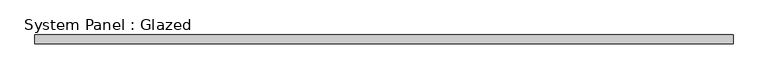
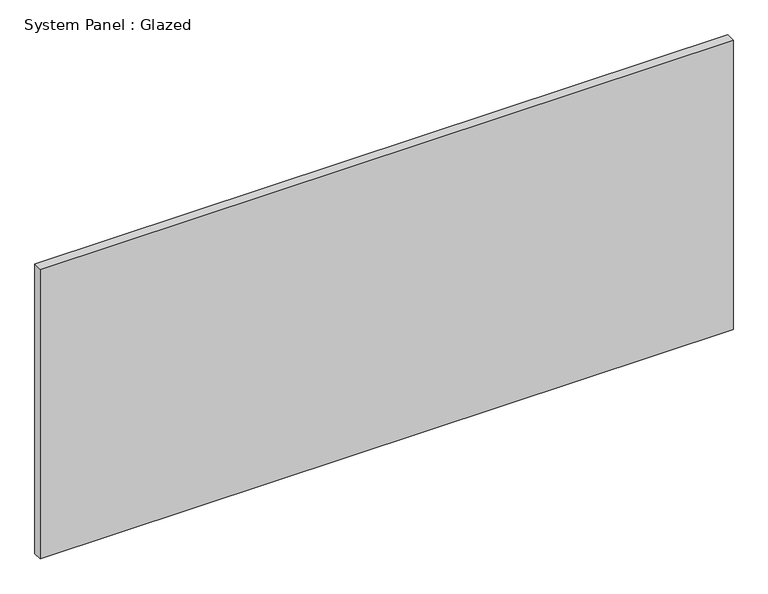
"""IFC4 building model written with IfcOpenShell, lengths in millimetres: plate geometry, System Panel : Glazed."""

from ifc_helpers import new_model, si_unit, origin, origin_with_axes, place, context, project, spatial, polyline, outline, extrude, source, transform, mapped, element, save


def system_panel_glazed_ebbf215a(model_context):
    return source(origin(), model_context, "Body", "SweptSolid", [
        extrude(outline(polyline([(984.25, 19.05), (-984.25, 19.05), (-984.25, 44.45), (984.25, 44.45), (984.25, 19.05)])), origin_with_axes(), (0.0, 0.0, 1.0), 869.95),
    ])


if __name__ == "__main__":
    model = new_model("IFC4")
    model_context = context("Model", 3, world=origin())
    ifc_project = project(units=[si_unit("LENGTHUNIT", "METRE", prefix="MILLI")], contexts=[model_context])
    site = spatial("IfcSite", under=ifc_project)
    building = spatial("IfcBuilding", under=site)
    placement = place(None, origin())
    system_panel_glazed_shape = system_panel_glazed_ebbf215a(model_context)
    element("IfcPlate", 1, ObjectType="System Panel : Glazed", at=placement, inside=building, context=model_context, shape_type="MappedRepresentation", body=[
        mapped(system_panel_glazed_shape, transform((0.0, 0.0, 0.0), x_axis=(1.0, 0.0, 0.0), y_axis=(0.0, 1.0, 0.0), z_axis=(0.0, 0.0, 1.0))),
    ])
    save(model, "model.ifc")
